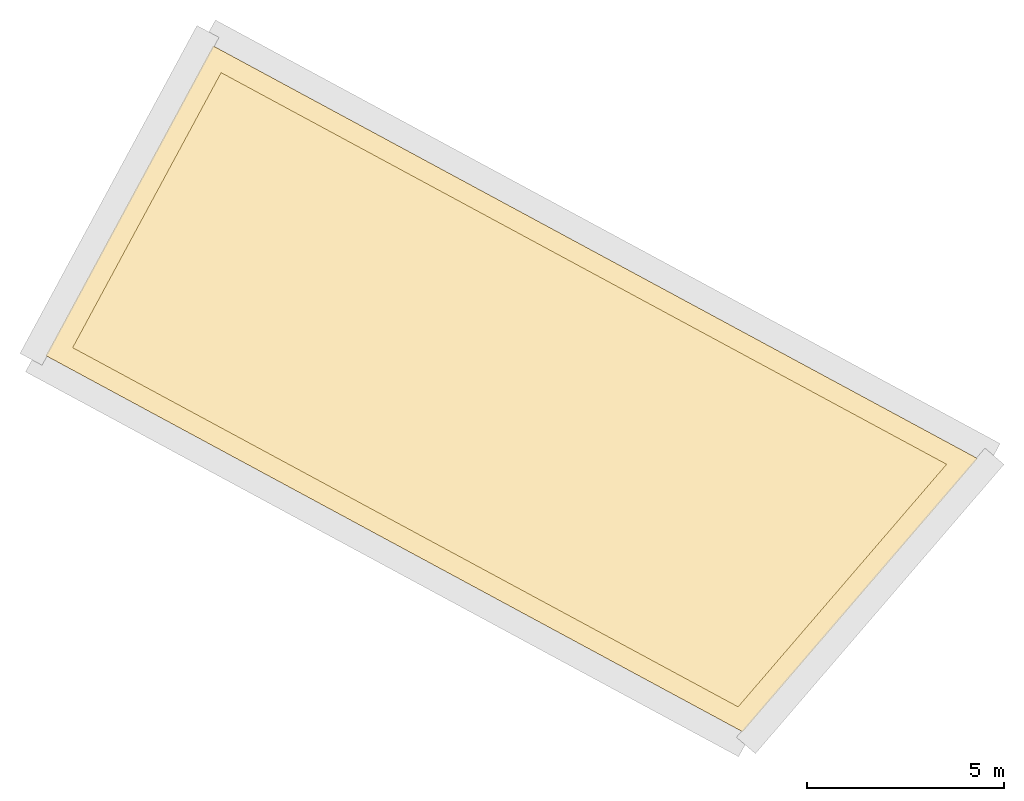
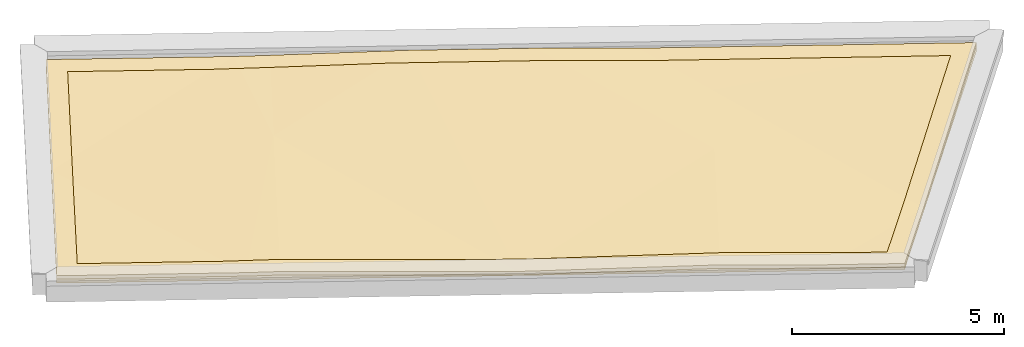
# One storey, part 3 of 3: 3 coverings.
"""IFC2X3 building model written with IfcOpenShell, lengths in metres."""

from ifc_helpers import new_model, entity, si_unit, converted_unit, derived_unit, money_unit, direction, frame, origin_with_axes, place, context, subcontext, project, spatial, faceted_brep, material, type_object, element, save


model = new_model("IFC2X3")

# Units and contexts
model_context = context("Model", 3, precision=1e-05, world=origin_with_axes(), true_north=direction((0.0, 1.0)))
body_context = subcontext(model_context, "Body", "Model", "MODEL_VIEW")
ifc_project = project(units=[si_unit("LENGTHUNIT", "METRE"), si_unit("AREAUNIT", "SQUARE_METRE"), si_unit("VOLUMEUNIT", "CUBIC_METRE"), converted_unit("PLANEANGLEUNIT", "DEGREE", entity("IfcPlaneAngleMeasure", 0.0174532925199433), si_unit("PLANEANGLEUNIT", "RADIAN"), dimensions=[0, 0, 0, 0, 0, 0, 0]), money_unit("EUR"), converted_unit("TIMEUNIT", "Year", entity("IfcTimeMeasure", 31556926.0), si_unit("TIMEUNIT", "SECOND"), dimensions=[0, 0, 1, 0, 0, 0, 0]), si_unit("MASSUNIT", "GRAM", prefix="KILO"), si_unit("THERMODYNAMICTEMPERATUREUNIT", "DEGREE_CELSIUS"), si_unit("LUMINOUSINTENSITYUNIT", "LUMEN"), si_unit("ENERGYUNIT", "JOULE", prefix="MEGA"), derived_unit("THERMALCONDUCTANCEUNIT", [(si_unit("POWERUNIT", "WATT"), 1), (si_unit("LENGTHUNIT", "METRE"), -1), (si_unit("THERMODYNAMICTEMPERATUREUNIT", "KELVIN"), -1)]), derived_unit("SPECIFICHEATCAPACITYUNIT", [(si_unit("ENERGYUNIT", "JOULE"), 1), (si_unit("MASSUNIT", "GRAM", prefix="KILO"), -1), (si_unit("THERMODYNAMICTEMPERATUREUNIT", "KELVIN"), -1)]), derived_unit("MASSDENSITYUNIT", [(si_unit("MASSUNIT", "GRAM", prefix="KILO"), 1), (si_unit("VOLUMEUNIT", "CUBIC_METRE"), -1)])], contexts=[model_context])

# Site, building, storey
site_placement = place(None, frame((-3.949935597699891, 1.740105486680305, 0.0), z_axis=(0.0, 0.0, 1.0), x_axis=(0.8799804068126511, -0.475009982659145, 0.0)))
site = spatial("IfcSite", under=ifc_project, at=site_placement, Name="Gelände", CompositionType="ELEMENT")
building_placement = place(site_placement, origin_with_axes())
building = spatial("IfcBuilding", under=site, at=building_placement, Name="Gebäude", CompositionType="ELEMENT")
storey_placement = place(building_placement, frame((0.0, 0.0, 7.904999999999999), z_axis=(0.0, 0.0, 1.0), x_axis=(1.0, 0.0, 0.0)))
storey = spatial("IfcBuildingStorey", under=building, at=storey_placement, Name="Dachaufsicht", CompositionType="ELEMENT", Elevation=7.905)

# Coverings
ifc_material_1 = material(Name="_SIWH - Gründach")
covering_type_1 = type_object("IfcCoveringType", Name="_SIWH - Gründach", PredefinedType="ROOFING")
covering_1_placement = place(storey_placement, frame((5.657480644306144, 1.684987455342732, -0.05100000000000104), z_axis=(0.0, 0.0, 1.0), x_axis=(1.0, 0.0, 0.0)))
element("IfcCovering", 1, at=covering_1_placement, inside=storey, type_object=covering_type_1, material=ifc_material_1, Name="Freifläche-004", PredefinedType="ROOFING", context=body_context, shape_type="Brep", body=[
    faceted_brep([(21.37494441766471, 8.41281355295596, 0.1521081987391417), (20.14125872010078, 2.764287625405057, 0.0282779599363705), (15.69001424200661, 7.215532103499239, 0.1160000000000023), (20.13828195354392, 8.41281355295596, 0.1498597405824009), (21.37494441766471, 8.41281355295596, 0.2521081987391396), (20.14125872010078, 2.764287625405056, 0.1282779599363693), (20.10027891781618, 2.576658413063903, 0.1290855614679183), (19.90650332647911, 1.689441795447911, 0.1334074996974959), (19.64671920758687, 0.5000000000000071, 0.1577621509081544), (19.64671920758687, 0.5000000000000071, 0.05776215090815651), (19.90650332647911, 1.689441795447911, 0.03340749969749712), (20.10027891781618, 2.576658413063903, 0.02908556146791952), (15.69001424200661, 4.800000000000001, 0.1160000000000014), (14.4927327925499, 8.41281355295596, 0.1498597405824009), (20.13828195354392, 8.41281355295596, 0.2498597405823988), (12.78878924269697, 8.41281355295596, 0.1837194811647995), (12.07720068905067, 8.41281355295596, 0.200329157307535), (11.53865021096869, 8.41281355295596, 0.201228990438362), (8.731136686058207, 8.41281355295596, 0.2012289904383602), (8.102827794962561, 8.41281355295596, 0.199925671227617), (5.290014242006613, 8.41281355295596, 0.1320000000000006), (4.568291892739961, 8.41281355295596, 0.1184148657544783), (3.940000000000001, 8.41281355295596, 0.1051891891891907), (0.4999999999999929, 8.41281355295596, 0.1051891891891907), (0.4999999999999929, 8.41281355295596, 0.2051891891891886), (3.94, 8.41281355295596, 0.2051891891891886), (4.568291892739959, 8.41281355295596, 0.2184148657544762), (5.290014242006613, 8.41281355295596, 0.2320000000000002), (8.102827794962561, 8.41281355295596, 0.2999256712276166), (8.731136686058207, 8.41281355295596, 0.3012289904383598), (11.53865021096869, 8.41281355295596, 0.3012289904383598), (12.07720068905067, 8.41281355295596, 0.3003291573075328), (12.78878924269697, 8.41281355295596, 0.2837194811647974), (14.49273279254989, 8.41281355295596, 0.2498597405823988), (15.69001424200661, 7.215532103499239, 0.2160000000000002), (15.69001424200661, 4.800000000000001, 0.2160000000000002), (17.95382743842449, 0.5000000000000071, 0.1730000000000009), (18.71706153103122, 0.5000000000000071, 0.1577621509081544), (15.69001424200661, 0.5000000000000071, 0.2160000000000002), (11.39001424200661, 0.5000000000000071, 0.1299999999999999), (10.92856472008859, 0.5000000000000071, 0.1307710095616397), (10.76170535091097, 0.5000000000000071, 0.1307710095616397), (10.39001424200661, 0.5000000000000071, 0.1299999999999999), (5.290014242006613, 0.5000000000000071, 0.2320000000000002), (4.54577790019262, 0.5000000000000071, 0.2174285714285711), (3.972813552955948, 0.5000000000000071, 0.2052684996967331), (0.4999999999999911, 0.5000000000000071, 0.2052684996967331), (0.4999999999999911, 0.5000000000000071, 0.1052684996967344), (3.972813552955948, 0.5000000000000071, 0.1052684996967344), (4.545777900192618, 0.5000000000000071, 0.1174285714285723), (5.290014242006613, 0.5000000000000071, 0.1320000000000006), (10.39001424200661, 0.5000000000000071, 0.03000000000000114), (10.76170535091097, 0.5000000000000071, 0.03077100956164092), (10.92856472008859, 0.5000000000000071, 0.03077100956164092), (11.39001424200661, 0.5000000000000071, 0.03000000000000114), (15.69001424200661, 0.5000000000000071, 0.1160000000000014), (17.95382743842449, 0.5000000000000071, 0.07300000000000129), (18.71706153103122, 0.5000000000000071, 0.05776215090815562), (5.290014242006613, 5.600000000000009, 0.1320000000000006), (0.4999999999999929, 4.57935262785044, 0.03058598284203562), (0.4999999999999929, 4.972813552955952, 0.03081081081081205), (0.4999999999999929, 4.972813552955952, 0.1308108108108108), (0.4999999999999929, 3.972813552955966, 0.03073150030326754), (0.4999999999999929, 3.972813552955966, 0.1307315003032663), (0.4999999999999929, 4.57935262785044, 0.1305859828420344), (5.290014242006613, 5.600000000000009, 0.2320000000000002)], [[[0, 1, 2, 3]], [[4, 5, 6, 7, 8, 9, 10, 11, 1, 0]], [[1, 11, 12, 2]], [[13, 3, 2]], [[14, 4, 0, 3, 13, 15, 16, 17, 18, 19, 20, 21, 22, 23, 24, 25, 26, 27, 28, 29, 30, 31, 32, 33]], [[4, 14, 34, 5]], [[6, 5, 34, 35]], [[7, 6, 35, 36, 37]], [[8, 7, 37]], [[8, 37, 36, 38, 39, 40, 41, 42, 43, 44, 45, 46, 47, 48, 49, 50, 51, 52, 53, 54, 55, 56, 57, 9]], [[9, 57, 10]], [[57, 56, 12, 11, 10]], [[16, 15, 2, 12]], [[15, 13, 2]], [[17, 16, 12, 54, 53]], [[18, 17, 53, 52]], [[19, 18, 52, 51, 58]], [[20, 19, 58]], [[21, 20, 58]], [[22, 21, 58, 59, 60]], [[23, 22, 60]], [[61, 24, 23, 60, 59, 62, 47, 46, 63, 64]], [[24, 61, 25]], [[61, 64, 65, 26, 25]], [[27, 26, 65]], [[28, 27, 65]], [[42, 41, 29, 28, 65]], [[41, 40, 30, 29]], [[40, 39, 35, 31, 30]], [[32, 31, 35, 34]], [[33, 32, 34]], [[14, 33, 34]], [[38, 36, 35]], [[39, 38, 35]], [[43, 42, 65]], [[44, 43, 65]], [[45, 44, 65, 64, 63]], [[46, 45, 63]], [[47, 62, 48]], [[62, 59, 58, 49, 48]], [[50, 49, 58]], [[51, 50, 58]], [[55, 54, 12]], [[56, 55, 12]]]),
])
ifc_material_2 = material(Name="Dämmung, hart Mineralwolle")
covering_type_2 = type_object("IfcCoveringType", Name="Dämmung, hart Mineralwolle", PredefinedType="INSULATION")
covering_2_placement = place(storey_placement, frame((5.657480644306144, 1.684987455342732, -0.05100000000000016), z_axis=(0.0, 0.0, 1.0), x_axis=(1.0, 0.0, 0.0)))
element("IfcCovering", 2, at=covering_2_placement, inside=storey, type_object=covering_type_2, material=ifc_material_2, Name="Freifläche-004", PredefinedType="INSULATION", context=body_context, shape_type="Brep", body=[
    faceted_brep([(4.472813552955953, 0.0, 0.1159999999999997), (5.290014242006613, 5.600000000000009, 0.1319999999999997), (0.0, 4.472813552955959, 0.01999999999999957), (5.290014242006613, 0.0, 0.1319999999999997), (4.44, 8.91281355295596, 0.1159999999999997), (0.0, 0.0, 0.1159999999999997), (10.89001424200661, 0.0, 0.01999999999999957), (20.04930162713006, 0.0, 0.0), (20.04930162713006, 0.0, 0.06799999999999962), (18.21706153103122, 0.0, 0.06799999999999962), (15.69001424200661, 0.0, 0.1159999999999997), (0.0, 0.0, 0.0), (0.0, 8.91281355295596, 0.1159999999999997), (5.290014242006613, 8.91281355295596, 0.1319999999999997), (0.0, 8.91281355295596, 0.0), (8.602827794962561, 8.91281355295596, 0.2119999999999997), (21.99593527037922, 8.91281355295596, 0.0), (21.99593527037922, 8.91281355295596, 0.1639999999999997), (20.56130393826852, 2.344242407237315, 0.01999999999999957), (15.69001424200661, 4.800000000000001, 0.1159999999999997), (11.57720068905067, 8.91281355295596, 0.2119999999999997), (13.9927327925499, 8.91281355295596, 0.1639999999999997), (15.69001424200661, 7.215532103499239, 0.1159999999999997)], [[[0, 1, 2]], [[3, 1, 0]], [[4, 2, 1]], [[5, 0, 2]], [[3, 6, 1]], [[7, 8, 9, 10, 6, 3, 0, 5, 11]], [[12, 2, 4]], [[13, 4, 1]], [[11, 5, 2, 12, 14]], [[15, 1, 6]], [[16, 17, 18, 8, 7]], [[8, 18, 9]], [[10, 9, 19]], [[10, 19, 6]], [[11, 14, 16, 7]], [[14, 12, 4, 13, 15, 20, 21, 17, 16]], [[15, 13, 1]], [[20, 15, 6]], [[17, 22, 18]], [[18, 19, 9]], [[6, 19, 20]], [[21, 20, 22]], [[17, 21, 22]], [[19, 18, 22]], [[19, 22, 20]]]),
])
ifc_material_3 = material(Name="_SIWH - Schotter, fein")
covering_type_3 = type_object("IfcCoveringType", Name="_SIWH - Schotter, fein", PredefinedType="ROOFING")
covering_3_placement = place(storey_placement, frame((5.65748064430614, 1.684987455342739, -0.05100000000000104), z_axis=(0.0, 0.0, 1.0), x_axis=(1.0, 0.0, 0.0)))
element("IfcCovering", 3, at=covering_3_placement, inside=storey, type_object=covering_type_3, material=ifc_material_3, Name="Freifläche-004", PredefinedType="ROOFING", context=body_context, shape_type="Brep", body=[
    faceted_brep([(14.49273279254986, 8.412813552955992, 0.1498597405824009), (20.13828195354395, 8.41281355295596, 0.1498597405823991), (21.37494441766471, 8.412813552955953, 0.1521081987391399), (21.37494441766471, 8.412813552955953, 0.2521081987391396), (20.13828195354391, 8.41281355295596, 0.2498597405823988), (14.4927327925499, 8.412813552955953, 0.2498597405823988), (12.78878924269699, 8.412813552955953, 0.2837194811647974), (12.07720068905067, 8.412813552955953, 0.3003291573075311), (11.53865021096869, 8.412813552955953, 0.3012289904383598), (8.73113668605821, 8.41281355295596, 0.3012289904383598), (8.102827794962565, 8.412813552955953, 0.2999256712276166), (5.290014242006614, 8.412813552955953, 0.2320000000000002), (4.568291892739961, 8.412813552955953, 0.2184148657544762), (3.939999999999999, 8.412813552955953, 0.2051891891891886), (0.4999999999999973, 8.412813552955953, 0.2051891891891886), (0.4999999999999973, 8.412813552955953, 0.1051891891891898), (3.940000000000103, 8.412813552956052, 0.1051891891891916), (4.568291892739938, 8.412813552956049, 0.1184148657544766), (5.290014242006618, 8.412813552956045, 0.1320000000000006), (8.102827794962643, 8.41281355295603, 0.1999256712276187), (8.731136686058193, 8.412813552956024, 0.201228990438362), (11.53865021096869, 8.412813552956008, 0.201228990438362), (12.07720068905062, 8.412813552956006, 0.2003291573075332), (12.78878924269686, 8.412813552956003, 0.1837194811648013), (13.9927327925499, 8.912813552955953, 0.1640000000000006), (21.99593527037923, 8.912813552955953, 0.1640000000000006), (20.56130393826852, 2.344242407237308, 0.02000000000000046), (20.14125872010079, 2.764287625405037, 0.02827795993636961), (19.90650332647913, 1.689441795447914, 0.03340749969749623), (19.64671920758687, 0.5, 0.05776215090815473), (19.64671920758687, 0.5, 0.1577621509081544), (19.90650332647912, 1.689441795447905, 0.1334074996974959), (20.10027891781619, 2.576658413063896, 0.1290855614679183), (20.14125872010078, 2.764287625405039, 0.1282779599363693), (20.10027891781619, 2.57665841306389, 0.02908556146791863), (20.56130393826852, 2.34424240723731, 0.1200000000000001), (21.99593527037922, 8.912813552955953, 0.2640000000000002), (13.9927327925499, 8.912813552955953, 0.2640000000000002), (11.57720068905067, 8.912813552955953, 0.3120000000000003), (8.602827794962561, 8.912813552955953, 0.3120000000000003), (5.290014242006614, 8.912813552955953, 0.2320000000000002), (4.439999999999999, 8.912813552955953, 0.2160000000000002), (0.0, 8.912813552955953, 0.2160000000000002), (0.0, 4.472813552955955, 0.1200000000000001), (0.4999999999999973, 4.972813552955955, 0.1308108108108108), (0.4999999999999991, 4.972813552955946, 0.03081081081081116), (0.4999999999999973, 4.579352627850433, 0.1305859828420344), (0.4999999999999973, 3.972813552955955, 0.1307315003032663), (0.4999999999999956, 0.5, 0.2052684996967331), (0.4999999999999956, 0.5, 0.1052684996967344), (0.4999999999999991, 3.972813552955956, 0.03073150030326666), (0.4999999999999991, 4.579352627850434, 0.03058598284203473), (0.0, 8.912813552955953, 0.1160000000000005), (4.440000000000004, 8.912813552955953, 0.1160000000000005), (0.0, 4.472813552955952, 0.02000000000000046), (5.290014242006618, 8.912813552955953, 0.1320000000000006), (8.602827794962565, 8.912813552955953, 0.2120000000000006), (11.57720068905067, 8.912813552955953, 0.2120000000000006), (20.04930162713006, 0.0, 0.0680000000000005), (20.04930162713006, 0.0, 0.1680000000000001), (18.21706153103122, 0.0, 0.0680000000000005), (18.71706153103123, 0.5, 0.05776215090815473), (3.972813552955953, 0.5, 0.1052684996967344), (3.972813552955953, 0.5, 0.2052684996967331), (4.545777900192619, 0.4999999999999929, 0.2174285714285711), (5.290014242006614, 0.5, 0.2320000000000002), (10.39001424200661, 0.5, 0.1299999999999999), (10.76170535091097, 0.5, 0.1307710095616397), (10.92856472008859, 0.5, 0.1307710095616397), (11.39001424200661, 0.5, 0.1299999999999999), (15.69001424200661, 0.5, 0.2160000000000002), (17.95382743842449, 0.5, 0.1730000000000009), (18.71706153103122, 0.5, 0.1577621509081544), (17.95382743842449, 0.5, 0.0730000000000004), (15.69001424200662, 0.5, 0.1160000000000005), (11.39001424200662, 0.5, 0.03000000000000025), (10.9285647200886, 0.5, 0.03077100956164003), (10.76170535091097, 0.5, 0.03077100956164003), (10.39001424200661, 0.5, 0.03000000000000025), (5.290014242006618, 0.5, 0.1320000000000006), (4.545777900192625, 0.5, 0.1174285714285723), (18.21706153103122, 0.0, 0.1680000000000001), (0.0, 0.0, 0.1160000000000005), (0.0, 0.0, 0.2160000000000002), (4.472813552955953, 0.0, 0.2160000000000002), (4.472813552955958, 0.0, 0.1160000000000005), (15.69001424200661, 0.0, 0.2160000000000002), (10.89001424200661, 0.0, 0.1200000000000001), (5.290014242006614, 0.0, 0.2320000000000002), (5.290014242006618, 0.0, 0.1320000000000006), (10.89001424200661, 0.0, 0.02000000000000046), (15.69001424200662, 0.0, 0.1160000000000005)], [[[0, 1, 2, 3, 4, 5, 6, 7, 8, 9, 10, 11, 12, 13, 14, 15, 16, 17, 18, 19, 20, 21, 22, 23]], [[24, 25, 1, 0]], [[25, 26, 27, 2, 1]], [[28, 29, 30, 31, 32, 33, 3, 2, 27, 34]], [[33, 35, 36, 4, 3]], [[4, 36, 37, 5]], [[5, 37, 38, 6]], [[38, 7, 6]], [[38, 8, 7]], [[39, 9, 8, 38]], [[39, 10, 9]], [[10, 39, 40, 11]], [[41, 12, 11, 40]], [[41, 13, 12]], [[13, 41, 42, 43, 44, 14]], [[45, 15, 14, 44, 46, 47, 48, 49, 50, 51]], [[52, 53, 16, 15, 45, 54]], [[17, 16, 53]], [[53, 55, 18, 17]], [[55, 56, 19, 18]], [[20, 19, 56]], [[56, 57, 21, 20]], [[22, 21, 57]], [[23, 22, 57]], [[0, 23, 57, 24]], [[53, 52, 42, 41, 40, 39, 38, 37, 36, 25, 24, 57, 56, 55]], [[58, 26, 25, 36, 35, 59]], [[34, 27, 26]], [[26, 58, 60, 61, 29, 28]], [[62, 49, 48, 63, 64, 65, 66, 67, 68, 69, 70, 71, 72, 30, 29, 61, 73, 74, 75, 76, 77, 78, 79, 80]], [[72, 81, 59, 35, 31, 30]], [[35, 32, 31]], [[35, 33, 32]], [[28, 34, 26]], [[54, 82, 83, 43, 42, 52]], [[43, 46, 44]], [[43, 47, 46]], [[47, 43, 83, 84, 63, 48]], [[85, 82, 54, 50, 49, 62]], [[51, 50, 54]], [[45, 51, 54]], [[60, 58, 59, 81, 86, 87, 88, 84, 83, 82, 85, 89, 90, 91]], [[73, 61, 60]], [[84, 64, 63]], [[88, 65, 64, 84]], [[65, 88, 87, 66]], [[87, 67, 66]], [[87, 68, 67]], [[87, 69, 68]], [[86, 70, 69, 87]], [[81, 71, 70, 86]], [[81, 72, 71]], [[60, 91, 74, 73]], [[75, 74, 91, 90]], [[76, 75, 90]], [[77, 76, 90]], [[78, 77, 90]], [[90, 89, 79, 78]], [[80, 79, 89, 85]], [[62, 80, 85]]]),
])

save(model, "model.ifc")
